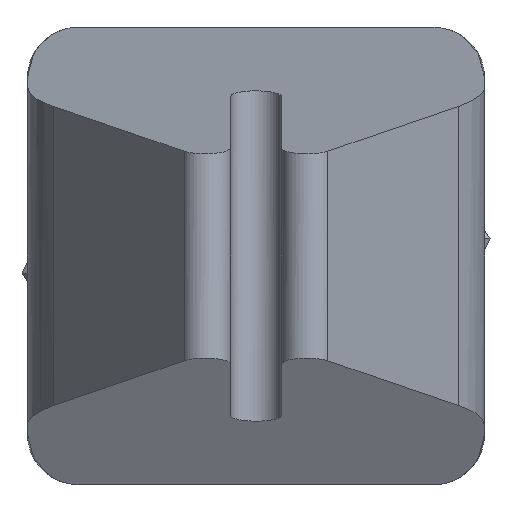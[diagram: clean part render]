
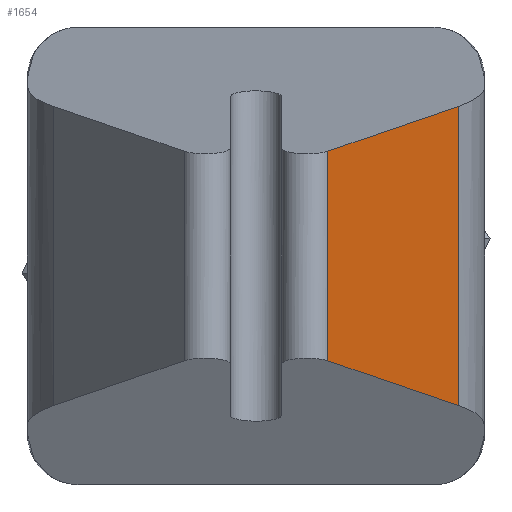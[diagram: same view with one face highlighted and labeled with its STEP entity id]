
A CAD part, front view. The second image highlights one B-rep face of the part: STEP entity #1654.
In plain terms, the highlighted planar face has unit normal (0.829, -0.559, 0).
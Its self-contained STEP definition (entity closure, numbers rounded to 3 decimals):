
#322 = PLANE ( 'NONE',  #817 ) ;
#347 = VERTEX_POINT ( 'NONE', #6930 ) ;
#360 = ORIENTED_EDGE ( 'NONE', *, *, #3268, .T. ) ;
#431 = VECTOR ( 'NONE', #2970, 1000. ) ;
#817 = AXIS2_PLACEMENT_3D ( 'NONE', #867, #4624, #1421 ) ;
#867 = CARTESIAN_POINT ( 'NONE',  ( 2.829, -27.288, 9. ) ) ;
#1239 = CARTESIAN_POINT ( 'NONE',  ( 2.829, -27.288, 4.126 ) ) ;
#1421 = DIRECTION ( 'NONE',  ( -0.559, -0.829, 0. ) ) ;
#1447 = LINE ( 'NONE', #2477, #4121 ) ;
#1654 = ADVANCED_FACE ( 'NONE', ( #4360 ), #322, .F. ) ;
#1733 = CARTESIAN_POINT ( 'NONE',  ( 7.974, -19.66, 5.887 ) ) ;
#2091 = ORIENTED_EDGE ( 'NONE', *, *, #6163, .F. ) ;
#2371 = ORIENTED_EDGE ( 'NONE', *, *, #5587, .F. ) ;
#2477 = CARTESIAN_POINT ( 'NONE',  ( 3.332, -26.542, 4.298 ) ) ;
#2609 = LINE ( 'NONE', #4706, #3878 ) ;
#2625 = DIRECTION ( 'NONE',  ( 0., 0., -1. ) ) ;
#2970 = DIRECTION ( 'NONE',  ( -0.549, -0.814, 0.188 ) ) ;
#3135 = EDGE_CURVE ( 'NONE', #6055, #5846, #1447, .T. ) ;
#3268 = EDGE_CURVE ( 'NONE', #6055, #347, #5078, .T. ) ;
#3473 = VECTOR ( 'NONE', #2625, 1000. ) ;
#3659 = VERTEX_POINT ( 'NONE', #5485 ) ;
#3878 = VECTOR ( 'NONE', #4175, 1000. ) ;
#3879 = EDGE_LOOP ( 'NONE', ( #2091, #2371, #5746, #360 ) ) ;
#4121 = VECTOR ( 'NONE', #6789, 1000. ) ;
#4175 = DIRECTION ( 'NONE',  ( 0., 0., -1. ) ) ;
#4360 = FACE_OUTER_BOUND ( 'NONE', #3879, .T. ) ;
#4624 = DIRECTION ( 'NONE',  ( -0.829, 0.559, 0. ) ) ;
#4706 = CARTESIAN_POINT ( 'NONE',  ( 7.974, -19.66, 9. ) ) ;
#5053 = LINE ( 'NONE', #5109, #431 ) ;
#5078 = LINE ( 'NONE', #6920, #3473 ) ;
#5109 = CARTESIAN_POINT ( 'NONE',  ( 1.474, -29.298, -3.662 ) ) ;
#5485 = CARTESIAN_POINT ( 'NONE',  ( 7.974, -19.66, -5.887 ) ) ;
#5587 = EDGE_CURVE ( 'NONE', #5846, #3659, #2609, .T. ) ;
#5746 = ORIENTED_EDGE ( 'NONE', *, *, #3135, .F. ) ;
#5846 = VERTEX_POINT ( 'NONE', #1733 ) ;
#6055 = VERTEX_POINT ( 'NONE', #1239 ) ;
#6163 = EDGE_CURVE ( 'NONE', #3659, #347, #5053, .T. ) ;
#6789 = DIRECTION ( 'NONE',  ( 0.549, 0.814, 0.188 ) ) ;
#6920 = CARTESIAN_POINT ( 'NONE',  ( 2.829, -27.288, 9. ) ) ;
#6930 = CARTESIAN_POINT ( 'NONE',  ( 2.829, -27.288, -4.126 ) ) ;
